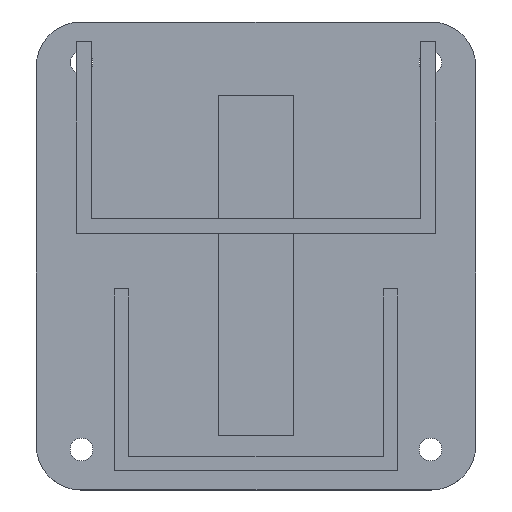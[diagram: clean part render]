
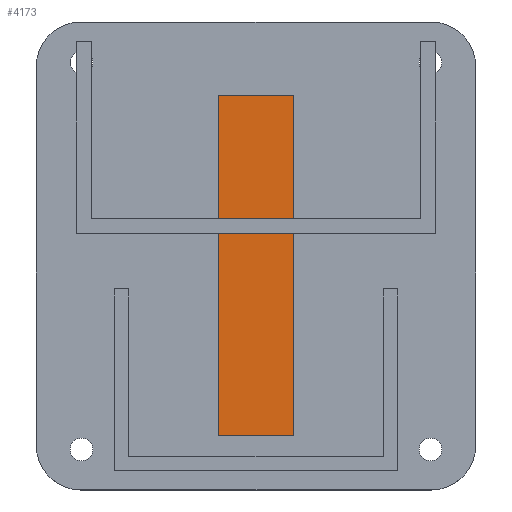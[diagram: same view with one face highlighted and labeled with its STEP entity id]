
A CAD part, top view. The second image highlights one B-rep face of the part: STEP entity #4173.
In plain terms, the highlighted planar face has unit normal (0, 0, 1).
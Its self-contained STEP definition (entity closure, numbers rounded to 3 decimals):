
#1329 = PLANE('',#1330);
#1330 = AXIS2_PLACEMENT_3D('',#1331,#1332,#1333);
#1331 = CARTESIAN_POINT('',(-4.,-19.,1.79));
#1332 = DIRECTION('',(1.,0.,0.));
#1333 = DIRECTION('',(0.,0.,1.));
#1355 = PLANE('',#1356);
#1356 = AXIS2_PLACEMENT_3D('',#1357,#1358,#1359);
#1357 = CARTESIAN_POINT('',(-4.,17.,1.79));
#1358 = DIRECTION('',(0.,1.,0.));
#1359 = DIRECTION('',(0.,0.,1.));
#1381 = PLANE('',#1382);
#1382 = AXIS2_PLACEMENT_3D('',#1383,#1384,#1385);
#1383 = CARTESIAN_POINT('',(4.,-19.,1.79));
#1384 = DIRECTION('',(1.,0.,0.));
#1385 = DIRECTION('',(0.,0.,1.));
#1698 = PLANE('',#1699);
#1699 = AXIS2_PLACEMENT_3D('',#1700,#1701,#1702);
#1700 = CARTESIAN_POINT('',(-4.,-19.,1.79));
#1701 = DIRECTION('',(0.,1.,0.));
#1702 = DIRECTION('',(0.,0.,1.));
#3456 = VERTEX_POINT('',#3457);
#3457 = CARTESIAN_POINT('',(-4.,-19.,1.79));
#3478 = EDGE_CURVE('',#3456,#3479,#3481,.T.);
#3479 = VERTEX_POINT('',#3480);
#3480 = CARTESIAN_POINT('',(-4.,17.,1.79));
#3481 = SURFACE_CURVE('',#3482,(#3486,#3493),.PCURVE_S1.);
#3482 = LINE('',#3483,#3484);
#3483 = CARTESIAN_POINT('',(-4.,-19.,1.79));
#3484 = VECTOR('',#3485,1.);
#3485 = DIRECTION('',(0.,1.,0.));
#3486 = PCURVE('',#1329,#3487);
#3487 = DEFINITIONAL_REPRESENTATION('',(#3488),#3492);
#3488 = LINE('',#3489,#3490);
#3489 = CARTESIAN_POINT('',(0.,0.));
#3490 = VECTOR('',#3491,1.);
#3491 = DIRECTION('',(0.,-1.));
#3492 = ( GEOMETRIC_REPRESENTATION_CONTEXT(2) 
PARAMETRIC_REPRESENTATION_CONTEXT() REPRESENTATION_CONTEXT('2D SPACE',''
  ) );
#3493 = PCURVE('',#3494,#3499);
#3494 = PLANE('',#3495);
#3495 = AXIS2_PLACEMENT_3D('',#3496,#3497,#3498);
#3496 = CARTESIAN_POINT('',(-4.,-19.,1.79));
#3497 = DIRECTION('',(0.,0.,1.));
#3498 = DIRECTION('',(1.,0.,0.));
#3499 = DEFINITIONAL_REPRESENTATION('',(#3500),#3504);
#3500 = LINE('',#3501,#3502);
#3501 = CARTESIAN_POINT('',(0.,0.));
#3502 = VECTOR('',#3503,1.);
#3503 = DIRECTION('',(0.,1.));
#3504 = ( GEOMETRIC_REPRESENTATION_CONTEXT(2) 
PARAMETRIC_REPRESENTATION_CONTEXT() REPRESENTATION_CONTEXT('2D SPACE',''
  ) );
#3576 = VERTEX_POINT('',#3577);
#3577 = CARTESIAN_POINT('',(4.,-19.,1.79));
#3598 = EDGE_CURVE('',#3456,#3576,#3599,.T.);
#3599 = SURFACE_CURVE('',#3600,(#3604,#3611),.PCURVE_S1.);
#3600 = LINE('',#3601,#3602);
#3601 = CARTESIAN_POINT('',(-4.,-19.,1.79));
#3602 = VECTOR('',#3603,1.);
#3603 = DIRECTION('',(1.,0.,0.));
#3604 = PCURVE('',#1698,#3605);
#3605 = DEFINITIONAL_REPRESENTATION('',(#3606),#3610);
#3606 = LINE('',#3607,#3608);
#3607 = CARTESIAN_POINT('',(0.,0.));
#3608 = VECTOR('',#3609,1.);
#3609 = DIRECTION('',(0.,1.));
#3610 = ( GEOMETRIC_REPRESENTATION_CONTEXT(2) 
PARAMETRIC_REPRESENTATION_CONTEXT() REPRESENTATION_CONTEXT('2D SPACE',''
  ) );
#3611 = PCURVE('',#3494,#3612);
#3612 = DEFINITIONAL_REPRESENTATION('',(#3613),#3617);
#3613 = LINE('',#3614,#3615);
#3614 = CARTESIAN_POINT('',(0.,0.));
#3615 = VECTOR('',#3616,1.);
#3616 = DIRECTION('',(1.,0.));
#3617 = ( GEOMETRIC_REPRESENTATION_CONTEXT(2) 
PARAMETRIC_REPRESENTATION_CONTEXT() REPRESENTATION_CONTEXT('2D SPACE',''
  ) );
#3625 = EDGE_CURVE('',#3576,#3626,#3628,.T.);
#3626 = VERTEX_POINT('',#3627);
#3627 = CARTESIAN_POINT('',(4.,17.,1.79));
#3628 = SURFACE_CURVE('',#3629,(#3633,#3640),.PCURVE_S1.);
#3629 = LINE('',#3630,#3631);
#3630 = CARTESIAN_POINT('',(4.,-19.,1.79));
#3631 = VECTOR('',#3632,1.);
#3632 = DIRECTION('',(0.,1.,0.));
#3633 = PCURVE('',#1381,#3634);
#3634 = DEFINITIONAL_REPRESENTATION('',(#3635),#3639);
#3635 = LINE('',#3636,#3637);
#3636 = CARTESIAN_POINT('',(0.,0.));
#3637 = VECTOR('',#3638,1.);
#3638 = DIRECTION('',(0.,-1.));
#3639 = ( GEOMETRIC_REPRESENTATION_CONTEXT(2) 
PARAMETRIC_REPRESENTATION_CONTEXT() REPRESENTATION_CONTEXT('2D SPACE',''
  ) );
#3640 = PCURVE('',#3494,#3641);
#3641 = DEFINITIONAL_REPRESENTATION('',(#3642),#3646);
#3642 = LINE('',#3643,#3644);
#3643 = CARTESIAN_POINT('',(8.,0.));
#3644 = VECTOR('',#3645,1.);
#3645 = DIRECTION('',(0.,1.));
#3646 = ( GEOMETRIC_REPRESENTATION_CONTEXT(2) 
PARAMETRIC_REPRESENTATION_CONTEXT() REPRESENTATION_CONTEXT('2D SPACE',''
  ) );
#4069 = EDGE_CURVE('',#3479,#3626,#4070,.T.);
#4070 = SURFACE_CURVE('',#4071,(#4075,#4082),.PCURVE_S1.);
#4071 = LINE('',#4072,#4073);
#4072 = CARTESIAN_POINT('',(-4.,17.,1.79));
#4073 = VECTOR('',#4074,1.);
#4074 = DIRECTION('',(1.,0.,0.));
#4075 = PCURVE('',#1355,#4076);
#4076 = DEFINITIONAL_REPRESENTATION('',(#4077),#4081);
#4077 = LINE('',#4078,#4079);
#4078 = CARTESIAN_POINT('',(0.,0.));
#4079 = VECTOR('',#4080,1.);
#4080 = DIRECTION('',(0.,1.));
#4081 = ( GEOMETRIC_REPRESENTATION_CONTEXT(2) 
PARAMETRIC_REPRESENTATION_CONTEXT() REPRESENTATION_CONTEXT('2D SPACE',''
  ) );
#4082 = PCURVE('',#3494,#4083);
#4083 = DEFINITIONAL_REPRESENTATION('',(#4084),#4088);
#4084 = LINE('',#4085,#4086);
#4085 = CARTESIAN_POINT('',(0.,36.));
#4086 = VECTOR('',#4087,1.);
#4087 = DIRECTION('',(1.,0.));
#4088 = ( GEOMETRIC_REPRESENTATION_CONTEXT(2) 
PARAMETRIC_REPRESENTATION_CONTEXT() REPRESENTATION_CONTEXT('2D SPACE',''
  ) );
#4173 = ADVANCED_FACE('',(#4174),#3494,.T.);
#4174 = FACE_BOUND('',#4175,.T.);
#4175 = EDGE_LOOP('',(#4176,#4177,#4178,#4179));
#4176 = ORIENTED_EDGE('',*,*,#3478,.F.);
#4177 = ORIENTED_EDGE('',*,*,#3598,.T.);
#4178 = ORIENTED_EDGE('',*,*,#3625,.T.);
#4179 = ORIENTED_EDGE('',*,*,#4069,.F.);
